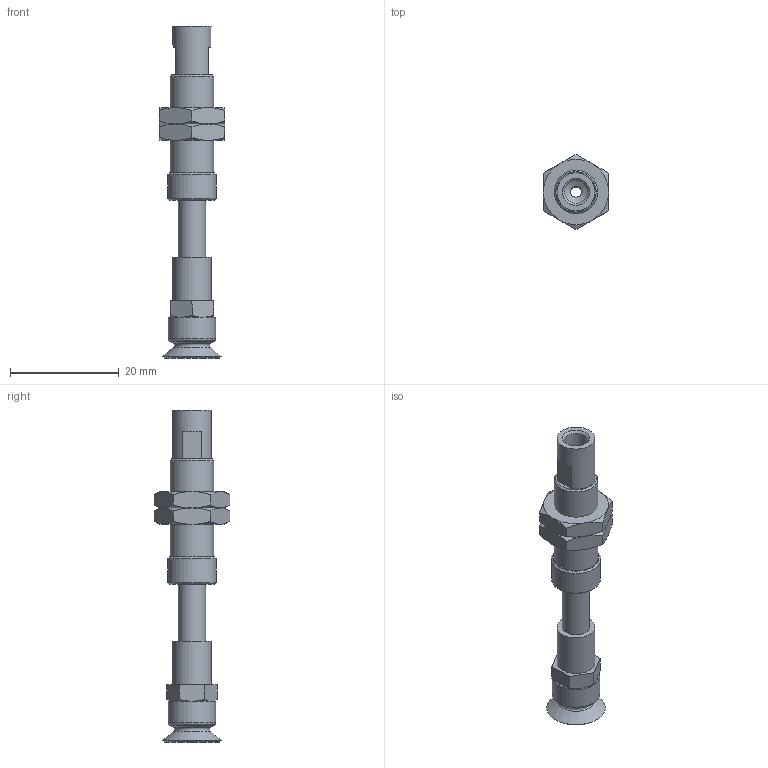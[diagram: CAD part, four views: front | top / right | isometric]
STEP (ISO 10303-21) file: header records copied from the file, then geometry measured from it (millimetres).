
FILE_DESCRIPTION(('STEP AP203'),'1');
FILE_NAME('-SPE.stp','2025-04-11T08:45:11',(' '),(' '),'Spatial InterOp 3D',' ',' ');
FILE_SCHEMA(('CONFIG_CONTROL_DESIGN'));
Length unit declared in the file: millimetre
Products named in the file (8): BNABPFTS-10A-10-※-SPE; ZIG; BODY; NUT; TN-PS-10-M5; Setting screws-TN-PS-10-M5; BPFG-10A-※
Assembly tree (7 placements, depth 3):
  BNABPFTS-10A-10-※-SPE
    ZIG
    BODY
    NUT
    NUT
    TN-PS-10-M5
      Setting screws-TN-PS-10-M5
    BPFG-10A-※
Bounding box: 12 x 13.86 x 61 mm (x, y, z)
Volume: 2702.4 mm3; surface area: 3988 mm2
Topology: 6 solids, 6 shells, 137 faces, 284 edges, 172 vertices
Faces by surface type: plane 59, cone 47, cylinder 23, torus 7, bspline 1
Full cylindrical faces by diameter (mm): 2 x3, 3.9 x1, 4 x4, 4.2 x2, 5 x3, 5.2 x1, 6 x2, 7 x2, 7.25 x2, 8 x1, 8.7 x1, 9 x1
Entity records: 3761 total; most frequent: CARTESIAN_POINT 741, DIRECTION 562, ORIENTED_EDGE 448, AXIS2_PLACEMENT_3D 253, EDGE_CURVE 224, EDGE_LOOP 210, FACE_OUTER_BOUND 168, VERTEX_POINT 160
